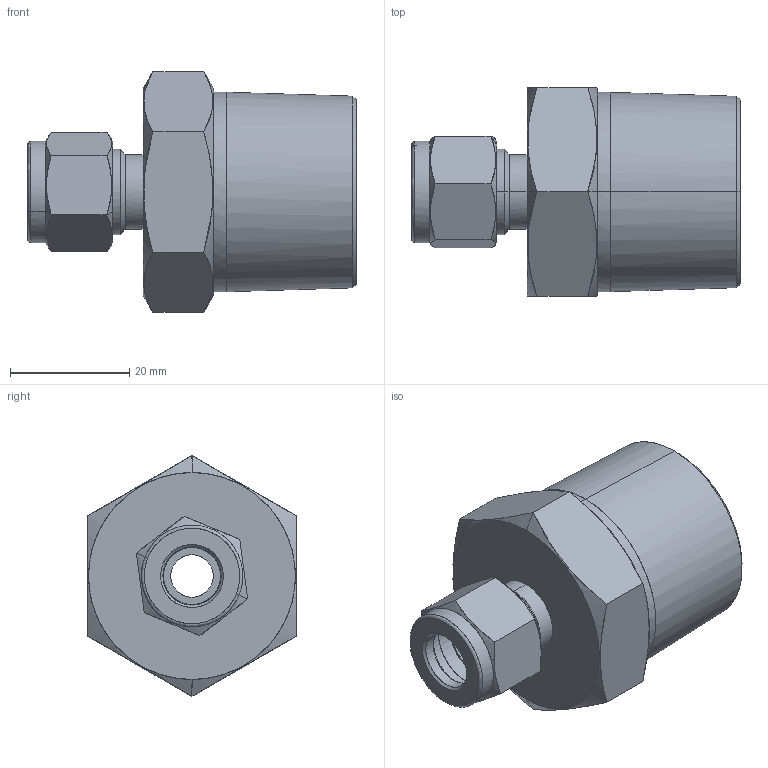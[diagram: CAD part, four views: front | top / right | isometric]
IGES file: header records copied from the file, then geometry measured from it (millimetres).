
Start section: Comment
Global section: file name: SMC6-16N.igs; native system:  By UGS Corp.; preprocessor: XPlus GENERIC/IGES 3.0; author: Author; organization: Title; date: 20100113.154639; units: millimetre
Bounding box: 55 x 34.9 x 40.3 mm (x, y, z)
Surface area: 9043.3 mm2 (no closed solid volume)
Topology: 0 solids, 0 shells, 75 faces, 316 edges, 316 vertices
Faces by surface type: bspline 75
